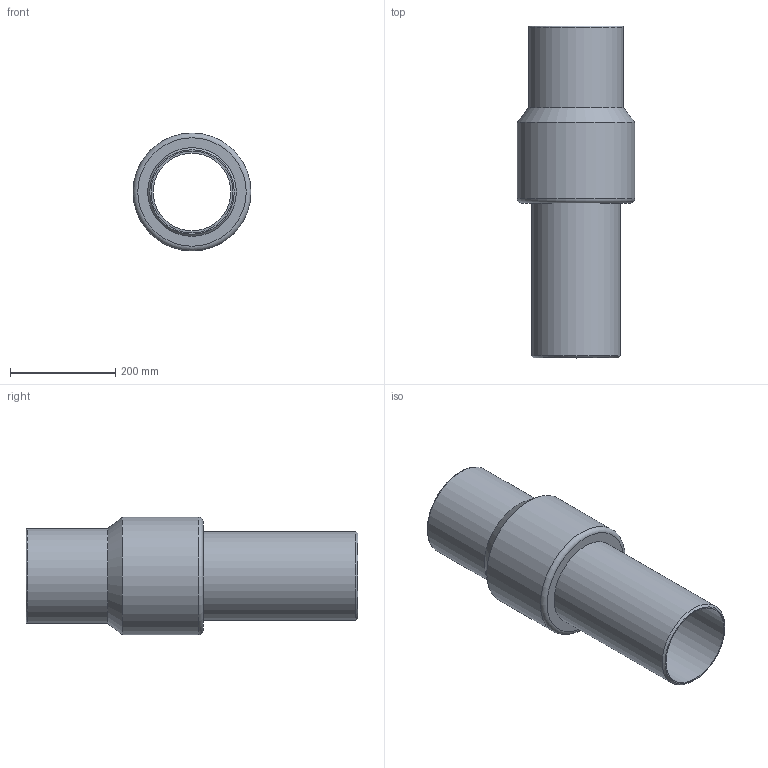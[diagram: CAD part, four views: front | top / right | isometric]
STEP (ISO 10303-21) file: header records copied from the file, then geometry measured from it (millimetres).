
FILE_DESCRIPTION(/* description */ ('Unknown'),/* implementation_level */ '2;1');
FILE_NAME(/* name */ 'RTSNP180C',/* time_stamp */ '2022-04-26T17:42:43+02:00',/* author */ ('Unknown'),/* organization */ ('Unknown'),/* preprocessor_version */ 'ST-DEVELOPER v18.1',/* originating_system */ 'Solid Edge',/* authorisation */ 'Unknown');
FILE_SCHEMA (('AUTOMOTIVE_DESIGN {1 0 10303 214 3 1 1}'));
Length unit declared in the file: millimetre
Products named in the file (3): RTSNP180C; Parte PE_; Partea ACCIAIO
Assembly tree (2 placements, depth 2):
  RTSNP180C
    Parte PE_
    Partea ACCIAIO
Bounding box: 224 x 630 x 224 mm (x, y, z)
Volume: 5788116.5 mm3; surface area: 868901.3 mm2
Topology: 2 solids, 2 shells, 15 faces, 27 edges, 17 vertices
Faces by surface type: cylinder 6, plane 5, cone 2, torus 2
Full cylindrical faces by diameter (mm): 147.2 x1, 155.6 x1, 168.3 x2, 180 x1, 224 x1
Entity records: 388 total; most frequent: DIRECTION 66, CARTESIAN_POINT 48, AXIS2_PLACEMENT_3D 33, ORIENTED_EDGE 30, EDGE_LOOP 30, FACE_BOUND 30, EDGE_CURVE 15, VERTEX_POINT 15
